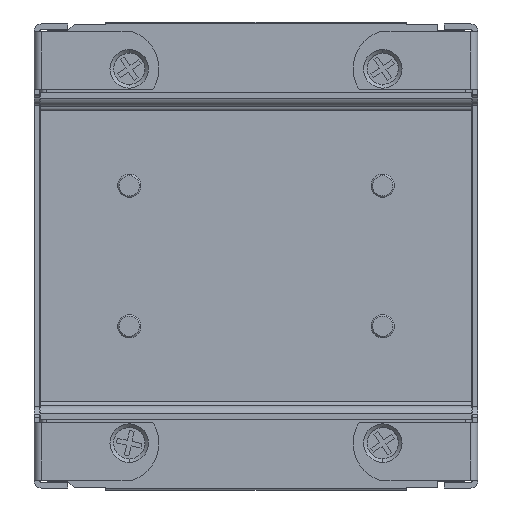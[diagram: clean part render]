
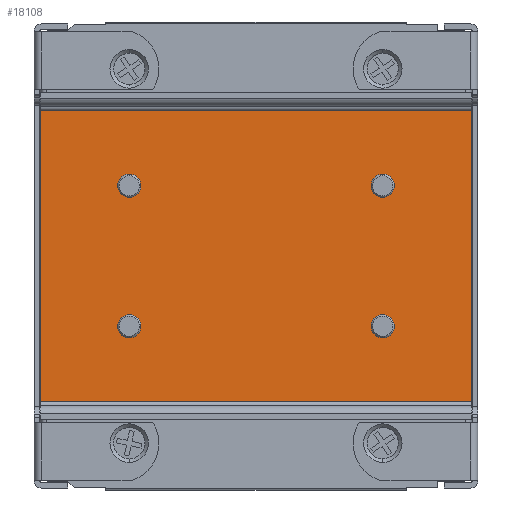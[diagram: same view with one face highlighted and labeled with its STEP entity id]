
A CAD part, front view. The second image highlights one B-rep face of the part: STEP entity #18108.
In plain terms, the highlighted planar face has unit normal (0, -1, 0).
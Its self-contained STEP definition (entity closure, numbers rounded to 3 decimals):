
#5570 = DIRECTION ( 'NONE',  ( 1., 0., 0. ) ) ;
#5571 = VECTOR ( 'NONE', #5570, 1000. ) ;
#5572 = CARTESIAN_POINT ( 'NONE',  ( -77.65, 9.5, -20.369 ) ) ;
#5573 = LINE ( 'NONE', #5572, #5571 ) ;
#5574 = CARTESIAN_POINT ( 'NONE',  ( -22.35, 9.5, -20.369 ) ) ;
#5586 = CARTESIAN_POINT ( 'NONE',  ( -77.65, 9.5, -20.369 ) ) ;
#5610 = CARTESIAN_POINT ( 'NONE',  ( -66.25, 9.5, 10.5 ) ) ;
#5611 = CARTESIAN_POINT ( 'NONE',  ( -66.25, 9.5, 7.5 ) ) ;
#5612 = DIRECTION ( 'NONE',  ( 0., 0., 1. ) ) ;
#5613 = DIRECTION ( 'NONE',  ( 0., 1., 0. ) ) ;
#5614 = CARTESIAN_POINT ( 'NONE',  ( -66.25, 9.5, 9. ) ) ;
#5615 = AXIS2_PLACEMENT_3D ( 'NONE', #5614, #5613, #5612 ) ;
#5616 = CIRCLE ( 'NONE', #5615, 1.5 ) ;
#5628 = CARTESIAN_POINT ( 'NONE',  ( -66.25, 9.5, -10.5 ) ) ;
#5654 = CARTESIAN_POINT ( 'NONE',  ( -66.25, 9.5, -7.5 ) ) ;
#5655 = DIRECTION ( 'NONE',  ( 0., 0., 1. ) ) ;
#5656 = DIRECTION ( 'NONE',  ( 0., 1., 0. ) ) ;
#5657 = CARTESIAN_POINT ( 'NONE',  ( -66.25, 9.5, -9. ) ) ;
#5658 = AXIS2_PLACEMENT_3D ( 'NONE', #5657, #5656, #5655 ) ;
#5659 = CIRCLE ( 'NONE', #5658, 1.5 ) ;
#5937 = DIRECTION ( 'NONE',  ( 0., 0., 1. ) ) ;
#5938 = DIRECTION ( 'NONE',  ( 0., 1., 0. ) ) ;
#5939 = CARTESIAN_POINT ( 'NONE',  ( -66.25, 9.5, -9. ) ) ;
#5940 = AXIS2_PLACEMENT_3D ( 'NONE', #5939, #5938, #5937 ) ;
#5941 = CIRCLE ( 'NONE', #5940, 1.5 ) ;
#5967 = DIRECTION ( 'NONE',  ( 0., 0., 1. ) ) ;
#5968 = DIRECTION ( 'NONE',  ( 0., 1., 0. ) ) ;
#5969 = CARTESIAN_POINT ( 'NONE',  ( -33.75, 9.5, -9. ) ) ;
#5970 = AXIS2_PLACEMENT_3D ( 'NONE', #5969, #5968, #5967 ) ;
#5971 = CIRCLE ( 'NONE', #5970, 1.5 ) ;
#5972 = DIRECTION ( 'NONE',  ( 0., 0., 1. ) ) ;
#5973 = DIRECTION ( 'NONE',  ( 0., 1., 0. ) ) ;
#5974 = CARTESIAN_POINT ( 'NONE',  ( -45.5, 9.5, 11.5 ) ) ;
#5975 = AXIS2_PLACEMENT_3D ( 'NONE', #5974, #5973, #5972 ) ;
#5976 = PLANE ( 'NONE',  #5975 ) ;
#5977 = FACE_OUTER_BOUND ( 'NONE', #18097, .T. ) ;
#5978 = FACE_BOUND ( 'NONE', #18177, .T. ) ;
#5979 = FACE_BOUND ( 'NONE', #18173, .T. ) ;
#5980 = FACE_BOUND ( 'NONE', #18113, .T. ) ;
#5981 = FACE_BOUND ( 'NONE', #18109, .T. ) ;
#5992 = DIRECTION ( 'NONE',  ( 1., 0., 0. ) ) ;
#5993 = VECTOR ( 'NONE', #5992, 1000. ) ;
#5994 = CARTESIAN_POINT ( 'NONE',  ( -77.65, 9.5, 20.369 ) ) ;
#5995 = LINE ( 'NONE', #5994, #5993 ) ;
#5996 = CARTESIAN_POINT ( 'NONE',  ( -22.35, 9.5, 20.369 ) ) ;
#5997 = DIRECTION ( 'NONE',  ( 0., 0., 1. ) ) ;
#5998 = VECTOR ( 'NONE', #5997, 1000. ) ;
#5999 = CARTESIAN_POINT ( 'NONE',  ( -22.35, 9.5, -21. ) ) ;
#6000 = LINE ( 'NONE', #5999, #5998 ) ;
#6027 = DIRECTION ( 'NONE',  ( 0., 0., 1. ) ) ;
#6028 = DIRECTION ( 'NONE',  ( 0., 1., 0. ) ) ;
#6029 = CARTESIAN_POINT ( 'NONE',  ( -33.75, 9.5, 9. ) ) ;
#6030 = AXIS2_PLACEMENT_3D ( 'NONE', #6029, #6028, #6027 ) ;
#6031 = CIRCLE ( 'NONE', #6030, 1.5 ) ;
#6070 = DIRECTION ( 'NONE',  ( 0., 0., -1. ) ) ;
#6071 = VECTOR ( 'NONE', #6070, 1000. ) ;
#6072 = CARTESIAN_POINT ( 'NONE',  ( -77.65, 9.5, -21. ) ) ;
#6073 = LINE ( 'NONE', #6072, #6071 ) ;
#6074 = CARTESIAN_POINT ( 'NONE',  ( -77.65, 9.5, 20.369 ) ) ;
#6100 = CARTESIAN_POINT ( 'NONE',  ( -33.75, 9.5, -7.5 ) ) ;
#6101 = CARTESIAN_POINT ( 'NONE',  ( -33.75, 9.5, -10.5 ) ) ;
#6102 = DIRECTION ( 'NONE',  ( 0., 0., 1. ) ) ;
#6103 = DIRECTION ( 'NONE',  ( 0., 1., 0. ) ) ;
#6104 = CARTESIAN_POINT ( 'NONE',  ( -33.75, 9.5, -9. ) ) ;
#6105 = AXIS2_PLACEMENT_3D ( 'NONE', #6104, #6103, #6102 ) ;
#6106 = CIRCLE ( 'NONE', #6105, 1.5 ) ;
#6107 = DIRECTION ( 'NONE',  ( 0., 0., 1. ) ) ;
#6108 = DIRECTION ( 'NONE',  ( 0., 1., 0. ) ) ;
#6109 = CARTESIAN_POINT ( 'NONE',  ( -66.25, 9.5, 9. ) ) ;
#6110 = AXIS2_PLACEMENT_3D ( 'NONE', #6109, #6108, #6107 ) ;
#6111 = CIRCLE ( 'NONE', #6110, 1.5 ) ;
#6193 = CARTESIAN_POINT ( 'NONE',  ( -33.75, 9.5, 10.5 ) ) ;
#6194 = CARTESIAN_POINT ( 'NONE',  ( -33.75, 9.5, 7.5 ) ) ;
#6195 = DIRECTION ( 'NONE',  ( 0., 0., 1. ) ) ;
#6196 = DIRECTION ( 'NONE',  ( 0., 1., 0. ) ) ;
#6197 = AXIS2_PLACEMENT_3D ( 'NONE', #6203, #6196, #6195 ) ;
#6198 = CIRCLE ( 'NONE', #6197, 1.5 ) ;
#6203 = CARTESIAN_POINT ( 'NONE',  ( -33.75, 9.5, 9. ) ) ;
#17870 = VERTEX_POINT ( 'NONE', #5586 ) ;
#17877 = VERTEX_POINT ( 'NONE', #5574 ) ;
#17879 = EDGE_CURVE ( 'NONE', #17870, #17877, #5573, .T. ) ;
#17891 = EDGE_CURVE ( 'NONE', #17892, #17893, #5616, .T. ) ;
#17892 = VERTEX_POINT ( 'NONE', #5611 ) ;
#17893 = VERTEX_POINT ( 'NONE', #5610 ) ;
#17923 = VERTEX_POINT ( 'NONE', #5628 ) ;
#17937 = EDGE_CURVE ( 'NONE', #17923, #17938, #5659, .T. ) ;
#17938 = VERTEX_POINT ( 'NONE', #5654 ) ;
#18095 = EDGE_CURVE ( 'NONE', #17938, #17923, #5941, .T. ) ;
#18096 = ORIENTED_EDGE ( 'NONE', *, *, #17937, .T. ) ;
#18097 = EDGE_LOOP ( 'NONE', ( #18098, #18101, #18158, #18160 ) ) ;
#18098 = ORIENTED_EDGE ( 'NONE', *, *, #18099, .T. ) ;
#18099 = EDGE_CURVE ( 'NONE', #17877, #18100, #6000, .T. ) ;
#18100 = VERTEX_POINT ( 'NONE', #5996 ) ;
#18101 = ORIENTED_EDGE ( 'NONE', *, *, #18102, .F. ) ;
#18102 = EDGE_CURVE ( 'NONE', #18157, #18100, #5995, .T. ) ;
#18108 = ADVANCED_FACE ( 'NONE', ( #5981, #5980, #5979, #5978, #5977 ), #5976, .F. ) ;
#18109 = EDGE_LOOP ( 'NONE', ( #18110, #18112 ) ) ;
#18110 = ORIENTED_EDGE ( 'NONE', *, *, #18111, .T. ) ;
#18111 = EDGE_CURVE ( 'NONE', #18183, #18182, #5971, .T. ) ;
#18112 = ORIENTED_EDGE ( 'NONE', *, *, #18181, .T. ) ;
#18113 = EDGE_LOOP ( 'NONE', ( #18114, #18172 ) ) ;
#18114 = ORIENTED_EDGE ( 'NONE', *, *, #18115, .T. ) ;
#18115 = EDGE_CURVE ( 'NONE', #18231, #18230, #6031, .T. ) ;
#18157 = VERTEX_POINT ( 'NONE', #6074 ) ;
#18158 = ORIENTED_EDGE ( 'NONE', *, *, #18159, .T. ) ;
#18159 = EDGE_CURVE ( 'NONE', #18157, #17870, #6073, .T. ) ;
#18160 = ORIENTED_EDGE ( 'NONE', *, *, #17879, .T. ) ;
#18172 = ORIENTED_EDGE ( 'NONE', *, *, #18229, .T. ) ;
#18173 = EDGE_LOOP ( 'NONE', ( #18174, #18176 ) ) ;
#18174 = ORIENTED_EDGE ( 'NONE', *, *, #18175, .T. ) ;
#18175 = EDGE_CURVE ( 'NONE', #17893, #17892, #6111, .T. ) ;
#18176 = ORIENTED_EDGE ( 'NONE', *, *, #17891, .T. ) ;
#18177 = EDGE_LOOP ( 'NONE', ( #18178, #18096 ) ) ;
#18178 = ORIENTED_EDGE ( 'NONE', *, *, #18095, .T. ) ;
#18181 = EDGE_CURVE ( 'NONE', #18182, #18183, #6106, .T. ) ;
#18182 = VERTEX_POINT ( 'NONE', #6101 ) ;
#18183 = VERTEX_POINT ( 'NONE', #6100 ) ;
#18229 = EDGE_CURVE ( 'NONE', #18230, #18231, #6198, .T. ) ;
#18230 = VERTEX_POINT ( 'NONE', #6194 ) ;
#18231 = VERTEX_POINT ( 'NONE', #6193 ) ;
